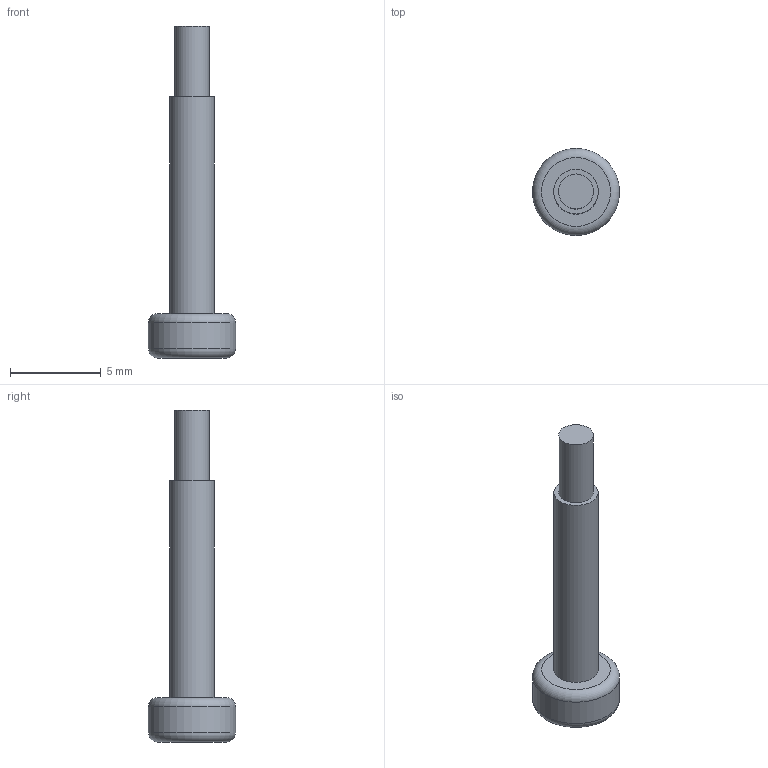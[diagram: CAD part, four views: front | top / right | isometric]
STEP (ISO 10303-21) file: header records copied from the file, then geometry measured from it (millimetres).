
FILE_DESCRIPTION(/* description */ (''),/* implementation_level */ '2;1');
FILE_NAME(/* name */ 'Y-JG-WJ-B00143-01.stp',/* time_stamp */ '2024-04-13T19:04:51+08:00',/* author */ (''),/* organization */ (''),/* preprocessor_version */ 'ST-DEVELOPER v16',/* originating_system */ 'SIEMENS PLM Software NX 10.0',/* authorisation */ '');
FILE_SCHEMA (('AUTOMOTIVE_DESIGN { 1 0 10303 214 3 1 1 1 }'));
Length unit declared in the file: millimetre
Products named in the file (1): _model3
Bounding box: 4.8 x 4.8 x 18.3 mm (x, y, z)
Volume: 107.1 mm3; surface area: 190.2 mm2
Topology: 1 solids, 1 shells, 16 faces, 31 edges, 20 vertices
Faces by surface type: plane 11, cylinder 3, torus 2
Full cylindrical faces by diameter (mm): 1.93 x1, 2.46 x1, 4.8 x1
Entity records: 406 total; most frequent: DIRECTION 68, CARTESIAN_POINT 63, ORIENTED_EDGE 52, EDGE_CURVE 26, AXIS2_PLACEMENT_3D 25, EDGE_LOOP 24, VERTEX_POINT 20, LINE 18
